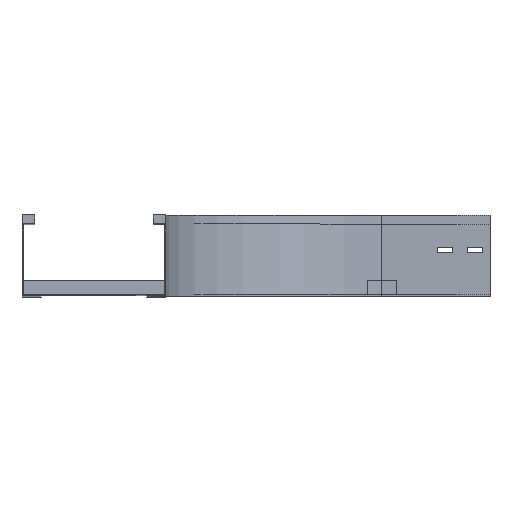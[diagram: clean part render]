
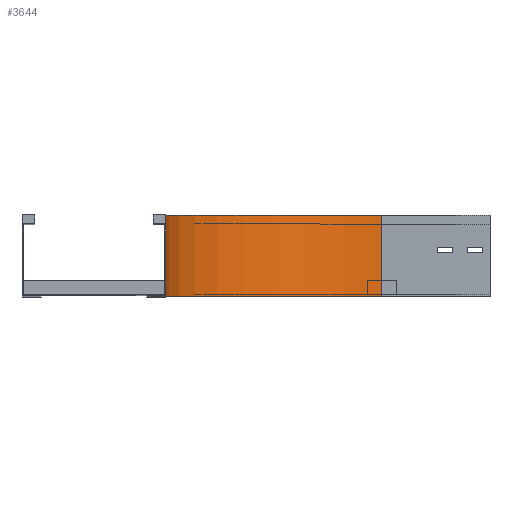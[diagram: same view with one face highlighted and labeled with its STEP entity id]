
A CAD part, top view. The second image highlights one B-rep face of the part: STEP entity #3644.
In plain terms, the highlighted cylindrical face has radius 300 mm (diameter 600 mm), a partial arc.
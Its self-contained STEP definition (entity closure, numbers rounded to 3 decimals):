
#93 = VECTOR ( 'NONE', #3274, 1000. ) ;
#439 = DIRECTION ( 'NONE',  ( 0., 0., -1. ) ) ;
#519 = DIRECTION ( 'NONE',  ( 0., 1., 0. ) ) ;
#645 = CARTESIAN_POINT ( 'NONE',  ( 0., 112.5, -150. ) ) ;
#713 = ORIENTED_EDGE ( 'NONE', *, *, #2140, .T. ) ;
#908 = AXIS2_PLACEMENT_3D ( 'NONE', #1276, #3366, #439 ) ;
#914 = VERTEX_POINT ( 'NONE', #645 ) ;
#956 = CIRCLE ( 'NONE', #2602, 300. ) ;
#1144 = CARTESIAN_POINT ( 'NONE',  ( 300., 0., -450. ) ) ;
#1276 = CARTESIAN_POINT ( 'NONE',  ( 300., 0., -150. ) ) ;
#1304 = DIRECTION ( 'NONE',  ( 0., -1., 0. ) ) ;
#1441 = CARTESIAN_POINT ( 'NONE',  ( 0., 0., -150. ) ) ;
#1483 = VERTEX_POINT ( 'NONE', #1144 ) ;
#1626 = CARTESIAN_POINT ( 'NONE',  ( 300., 0., -150. ) ) ;
#1818 = VECTOR ( 'NONE', #519, 1000. ) ;
#1943 = CARTESIAN_POINT ( 'NONE',  ( 300., 112.5, -150. ) ) ;
#2015 = VERTEX_POINT ( 'NONE', #2071 ) ;
#2071 = CARTESIAN_POINT ( 'NONE',  ( 300., 112.5, -450. ) ) ;
#2093 = EDGE_CURVE ( 'NONE', #914, #2015, #3326, .T. ) ;
#2140 = EDGE_CURVE ( 'NONE', #2247, #1483, #956, .T. ) ;
#2159 = DIRECTION ( 'NONE',  ( -1., 0., 0. ) ) ;
#2243 = CARTESIAN_POINT ( 'NONE',  ( 0., 0., -150. ) ) ;
#2247 = VERTEX_POINT ( 'NONE', #1441 ) ;
#2270 = CYLINDRICAL_SURFACE ( 'NONE', #908, 300. ) ;
#2283 = AXIS2_PLACEMENT_3D ( 'NONE', #1943, #3629, #2159 ) ;
#2537 = FACE_OUTER_BOUND ( 'NONE', #2588, .T. ) ;
#2588 = EDGE_LOOP ( 'NONE', ( #3086, #3518, #713, #3826 ) ) ;
#2602 = AXIS2_PLACEMENT_3D ( 'NONE', #1626, #1304, #2826 ) ;
#2738 = LINE ( 'NONE', #3641, #93 ) ;
#2826 = DIRECTION ( 'NONE',  ( -1., 0., 0. ) ) ;
#2887 = LINE ( 'NONE', #2243, #1818 ) ;
#2968 = EDGE_CURVE ( 'NONE', #2247, #914, #2887, .T. ) ;
#3086 = ORIENTED_EDGE ( 'NONE', *, *, #2093, .F. ) ;
#3274 = DIRECTION ( 'NONE',  ( 0., 1., 0. ) ) ;
#3326 = CIRCLE ( 'NONE', #2283, 300. ) ;
#3366 = DIRECTION ( 'NONE',  ( 0., -1., 0. ) ) ;
#3518 = ORIENTED_EDGE ( 'NONE', *, *, #2968, .F. ) ;
#3566 = EDGE_CURVE ( 'NONE', #1483, #2015, #2738, .T. ) ;
#3629 = DIRECTION ( 'NONE',  ( 0., -1., 0. ) ) ;
#3641 = CARTESIAN_POINT ( 'NONE',  ( 300., 0., -450. ) ) ;
#3644 = ADVANCED_FACE ( 'NONE', ( #2537 ), #2270, .F. ) ;
#3826 = ORIENTED_EDGE ( 'NONE', *, *, #3566, .T. ) ;
